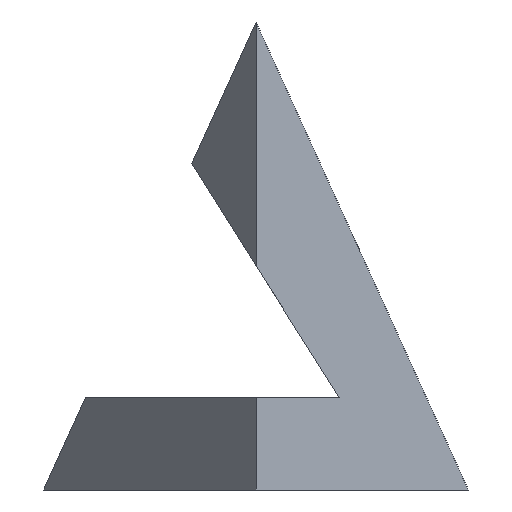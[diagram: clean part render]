
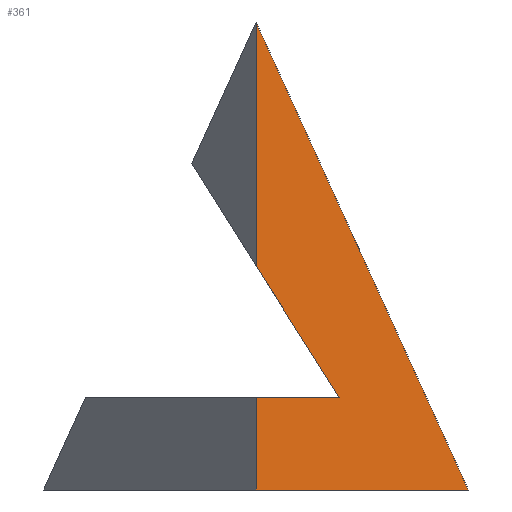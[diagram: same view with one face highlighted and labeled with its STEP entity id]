
A CAD part, front view. The second image highlights one B-rep face of the part: STEP entity #361.
In plain terms, the highlighted planar face has unit normal (0.838, -0.484, 0.254).
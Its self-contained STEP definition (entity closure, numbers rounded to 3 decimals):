
#31 = PLANE('',#32);
#32 = AXIS2_PLACEMENT_3D('',#33,#34,#35);
#33 = CARTESIAN_POINT('',(0.,0.,0.));
#34 = DIRECTION('',(0.,-0.967,-0.254));
#35 = DIRECTION('',(1.,0.,0.));
#42 = PLANE('',#43);
#43 = AXIS2_PLACEMENT_3D('',#44,#45,#46);
#44 = CARTESIAN_POINT('',(34.5,-59.756,0.));
#45 = DIRECTION('',(0.838,0.484,-0.254));
#46 = DIRECTION('',(-0.5,0.866,0.));
#54 = VERTEX_POINT('',#55);
#55 = CARTESIAN_POINT('',(69.,0.,0.));
#69 = PLANE('',#70);
#70 = AXIS2_PLACEMENT_3D('',#71,#72,#73);
#71 = CARTESIAN_POINT('',(0.,0.,0.));
#72 = DIRECTION('',(0.,0.,-1.));
#73 = DIRECTION('',(1.,0.,0.));
#81 = EDGE_CURVE('',#54,#82,#84,.T.);
#82 = VERTEX_POINT('',#83);
#83 = CARTESIAN_POINT('',(34.5,-19.919,76.));
#84 = SURFACE_CURVE('',#85,(#88,#94),.PCURVE_S1.);
#85 = B_SPLINE_CURVE_WITH_KNOTS('',1,(#86,#87),.UNSPECIFIED.,.F.,.F.,(2,
    2),(0.,1.),.PIECEWISE_BEZIER_KNOTS.);
#86 = CARTESIAN_POINT('',(69.,0.,0.));
#87 = CARTESIAN_POINT('',(34.5,-19.919,76.));
#88 = PCURVE('',#31,#89);
#89 = DEFINITIONAL_REPRESENTATION('',(#90),#93);
#90 = B_SPLINE_CURVE_WITH_KNOTS('',1,(#91,#92),.UNSPECIFIED.,.F.,.F.,(2,
    2),(0.,1.),.PIECEWISE_BEZIER_KNOTS.);
#91 = CARTESIAN_POINT('',(69.,0.));
#92 = CARTESIAN_POINT('',(34.5,78.567));
#93 = ( GEOMETRIC_REPRESENTATION_CONTEXT(2) 
PARAMETRIC_REPRESENTATION_CONTEXT() REPRESENTATION_CONTEXT('2D SPACE',''
  ) );
#94 = PCURVE('',#95,#100);
#95 = PLANE('',#96);
#96 = AXIS2_PLACEMENT_3D('',#97,#98,#99);
#97 = CARTESIAN_POINT('',(69.,0.,0.));
#98 = DIRECTION('',(-0.838,0.484,-0.254));
#99 = DIRECTION('',(-0.5,-0.866,0.));
#100 = DEFINITIONAL_REPRESENTATION('',(#101),#104);
#101 = B_SPLINE_CURVE_WITH_KNOTS('',1,(#102,#103),.UNSPECIFIED.,.F.,.F.,
  (2,2),(0.,1.),.PIECEWISE_BEZIER_KNOTS.);
#102 = CARTESIAN_POINT('',(0.,0.));
#103 = CARTESIAN_POINT('',(34.5,78.567));
#104 = ( GEOMETRIC_REPRESENTATION_CONTEXT(2) 
PARAMETRIC_REPRESENTATION_CONTEXT() REPRESENTATION_CONTEXT('2D SPACE',''
  ) );
#120 = PLANE('',#121);
#121 = AXIS2_PLACEMENT_3D('',#122,#123,#124);
#122 = CARTESIAN_POINT('',(34.5,-59.756,0.));
#123 = DIRECTION('',(0.838,0.484,-0.254));
#124 = DIRECTION('',(-0.5,0.866,0.));
#146 = PLANE('',#147);
#147 = AXIS2_PLACEMENT_3D('',#148,#149,#150);
#148 = CARTESIAN_POINT('',(48.,100.,15.));
#149 = DIRECTION('',(-0.846,-0.,-0.533));
#150 = DIRECTION('',(-0.533,0.,0.846));
#170 = PLANE('',#171);
#171 = AXIS2_PLACEMENT_3D('',#172,#173,#174);
#172 = CARTESIAN_POINT('',(-100.,100.,15.));
#173 = DIRECTION('',(-0.,0.,1.));
#174 = DIRECTION('',(1.,0.,0.));
#184 = EDGE_CURVE('',#185,#187,#189,.T.);
#185 = VERTEX_POINT('',#186);
#186 = CARTESIAN_POINT('',(34.5,-59.756,0.));
#187 = VERTEX_POINT('',#188);
#188 = CARTESIAN_POINT('',(34.5,-51.893,15.));
#189 = SURFACE_CURVE('',#190,(#193,#199),.PCURVE_S1.);
#190 = B_SPLINE_CURVE_WITH_KNOTS('',1,(#191,#192),.UNSPECIFIED.,.F.,.F.,
  (2,2),(0.,1.),.PIECEWISE_BEZIER_KNOTS.);
#191 = CARTESIAN_POINT('',(34.5,-59.756,0.));
#192 = CARTESIAN_POINT('',(34.5,-19.919,76.));
#193 = PCURVE('',#42,#194);
#194 = DEFINITIONAL_REPRESENTATION('',(#195),#198);
#195 = B_SPLINE_CURVE_WITH_KNOTS('',1,(#196,#197),.UNSPECIFIED.,.F.,.F.,
  (2,2),(0.,1.),.PIECEWISE_BEZIER_KNOTS.);
#196 = CARTESIAN_POINT('',(0.,0.));
#197 = CARTESIAN_POINT('',(34.5,78.567));
#198 = ( GEOMETRIC_REPRESENTATION_CONTEXT(2) 
PARAMETRIC_REPRESENTATION_CONTEXT() REPRESENTATION_CONTEXT('2D SPACE',''
  ) );
#199 = PCURVE('',#95,#200);
#200 = DEFINITIONAL_REPRESENTATION('',(#201),#204);
#201 = B_SPLINE_CURVE_WITH_KNOTS('',1,(#202,#203),.UNSPECIFIED.,.F.,.F.,
  (2,2),(0.,1.),.PIECEWISE_BEZIER_KNOTS.);
#202 = CARTESIAN_POINT('',(69.,0.));
#203 = CARTESIAN_POINT('',(34.5,78.567));
#204 = ( GEOMETRIC_REPRESENTATION_CONTEXT(2) 
PARAMETRIC_REPRESENTATION_CONTEXT() REPRESENTATION_CONTEXT('2D SPACE',''
  ) );
#251 = VERTEX_POINT('',#252);
#252 = CARTESIAN_POINT('',(48.,-28.51,15.));
#275 = EDGE_CURVE('',#187,#251,#276,.T.);
#276 = SURFACE_CURVE('',#277,(#281,#287),.PCURVE_S1.);
#277 = LINE('',#278,#279);
#278 = CARTESIAN_POINT('',(66.121,2.876,15.));
#279 = VECTOR('',#280,1.);
#280 = DIRECTION('',(0.5,0.866,0.));
#281 = PCURVE('',#170,#282);
#282 = DEFINITIONAL_REPRESENTATION('',(#283),#286);
#283 = B_SPLINE_CURVE_WITH_KNOTS('',1,(#284,#285),.UNSPECIFIED.,.F.,.F.,
  (2,2),(-70.051,-36.242),.PIECEWISE_BEZIER_KNOTS.);
#284 = CARTESIAN_POINT('',(131.095,-157.79));
#285 = CARTESIAN_POINT('',(148.,-128.51));
#286 = ( GEOMETRIC_REPRESENTATION_CONTEXT(2) 
PARAMETRIC_REPRESENTATION_CONTEXT() REPRESENTATION_CONTEXT('2D SPACE',''
  ) );
#287 = PCURVE('',#95,#288);
#288 = DEFINITIONAL_REPRESENTATION('',(#289),#292);
#289 = B_SPLINE_CURVE_WITH_KNOTS('',1,(#290,#291),.UNSPECIFIED.,.F.,.F.,
  (2,2),(-70.051,-36.242),.PIECEWISE_BEZIER_KNOTS.);
#290 = CARTESIAN_POINT('',(69.,15.507));
#291 = CARTESIAN_POINT('',(35.191,15.507));
#292 = ( GEOMETRIC_REPRESENTATION_CONTEXT(2) 
PARAMETRIC_REPRESENTATION_CONTEXT() REPRESENTATION_CONTEXT('2D SPACE',''
  ) );
#299 = EDGE_CURVE('',#251,#300,#302,.T.);
#300 = VERTEX_POINT('',#301);
#301 = CARTESIAN_POINT('',(34.5,-40.661,36.428));
#302 = SURFACE_CURVE('',#303,(#307,#313),.PCURVE_S1.);
#303 = LINE('',#304,#305);
#304 = CARTESIAN_POINT('',(69.496,-9.162,
    -19.12));
#305 = VECTOR('',#306,1.);
#306 = DIRECTION('',(-0.481,-0.433,0.763));
#307 = PCURVE('',#146,#308);
#308 = DEFINITIONAL_REPRESENTATION('',(#309),#312);
#309 = B_SPLINE_CURVE_WITH_KNOTS('',1,(#310,#311),.UNSPECIFIED.,.F.,.F.,
  (2,2),(44.729,99.711),.PIECEWISE_BEZIER_KNOTS.);
#310 = CARTESIAN_POINT('',(0.,-128.51));
#311 = CARTESIAN_POINT('',(49.572,-152.294));
#312 = ( GEOMETRIC_REPRESENTATION_CONTEXT(2) 
PARAMETRIC_REPRESENTATION_CONTEXT() REPRESENTATION_CONTEXT('2D SPACE',''
  ) );
#313 = PCURVE('',#95,#314);
#314 = DEFINITIONAL_REPRESENTATION('',(#315),#318);
#315 = B_SPLINE_CURVE_WITH_KNOTS('',1,(#316,#317),.UNSPECIFIED.,.F.,.F.,
  (2,2),(44.729,99.711),.PIECEWISE_BEZIER_KNOTS.);
#316 = CARTESIAN_POINT('',(35.191,15.507));
#317 = CARTESIAN_POINT('',(69.,58.865));
#318 = ( GEOMETRIC_REPRESENTATION_CONTEXT(2) 
PARAMETRIC_REPRESENTATION_CONTEXT() REPRESENTATION_CONTEXT('2D SPACE',''
  ) );
#342 = EDGE_CURVE('',#300,#82,#343,.T.);
#343 = SURFACE_CURVE('',#344,(#347,#353),.PCURVE_S1.);
#344 = B_SPLINE_CURVE_WITH_KNOTS('',1,(#345,#346),.UNSPECIFIED.,.F.,.F.,
  (2,2),(0.,1.),.PIECEWISE_BEZIER_KNOTS.);
#345 = CARTESIAN_POINT('',(34.5,-59.756,0.));
#346 = CARTESIAN_POINT('',(34.5,-19.919,76.));
#347 = PCURVE('',#120,#348);
#348 = DEFINITIONAL_REPRESENTATION('',(#349),#352);
#349 = B_SPLINE_CURVE_WITH_KNOTS('',1,(#350,#351),.UNSPECIFIED.,.F.,.F.,
  (2,2),(0.,1.),.PIECEWISE_BEZIER_KNOTS.);
#350 = CARTESIAN_POINT('',(0.,0.));
#351 = CARTESIAN_POINT('',(34.5,78.567));
#352 = ( GEOMETRIC_REPRESENTATION_CONTEXT(2) 
PARAMETRIC_REPRESENTATION_CONTEXT() REPRESENTATION_CONTEXT('2D SPACE',''
  ) );
#353 = PCURVE('',#95,#354);
#354 = DEFINITIONAL_REPRESENTATION('',(#355),#358);
#355 = B_SPLINE_CURVE_WITH_KNOTS('',1,(#356,#357),.UNSPECIFIED.,.F.,.F.,
  (2,2),(0.,1.),.PIECEWISE_BEZIER_KNOTS.);
#356 = CARTESIAN_POINT('',(69.,0.));
#357 = CARTESIAN_POINT('',(34.5,78.567));
#358 = ( GEOMETRIC_REPRESENTATION_CONTEXT(2) 
PARAMETRIC_REPRESENTATION_CONTEXT() REPRESENTATION_CONTEXT('2D SPACE',''
  ) );
#361 = ADVANCED_FACE('',(#362),#95,.F.);
#362 = FACE_BOUND('',#363,.F.);
#363 = EDGE_LOOP('',(#364,#365,#386,#387,#388,#389));
#364 = ORIENTED_EDGE('',*,*,#81,.F.);
#365 = ORIENTED_EDGE('',*,*,#366,.T.);
#366 = EDGE_CURVE('',#54,#185,#367,.T.);
#367 = SURFACE_CURVE('',#368,(#372,#379),.PCURVE_S1.);
#368 = LINE('',#369,#370);
#369 = CARTESIAN_POINT('',(69.,0.,0.));
#370 = VECTOR('',#371,1.);
#371 = DIRECTION('',(-0.5,-0.866,0.));
#372 = PCURVE('',#95,#373);
#373 = DEFINITIONAL_REPRESENTATION('',(#374),#378);
#374 = LINE('',#375,#376);
#375 = CARTESIAN_POINT('',(0.,0.));
#376 = VECTOR('',#377,1.);
#377 = DIRECTION('',(1.,0.));
#378 = ( GEOMETRIC_REPRESENTATION_CONTEXT(2) 
PARAMETRIC_REPRESENTATION_CONTEXT() REPRESENTATION_CONTEXT('2D SPACE',''
  ) );
#379 = PCURVE('',#69,#380);
#380 = DEFINITIONAL_REPRESENTATION('',(#381),#385);
#381 = LINE('',#382,#383);
#382 = CARTESIAN_POINT('',(69.,0.));
#383 = VECTOR('',#384,1.);
#384 = DIRECTION('',(-0.5,0.866));
#385 = ( GEOMETRIC_REPRESENTATION_CONTEXT(2) 
PARAMETRIC_REPRESENTATION_CONTEXT() REPRESENTATION_CONTEXT('2D SPACE',''
  ) );
#386 = ORIENTED_EDGE('',*,*,#184,.T.);
#387 = ORIENTED_EDGE('',*,*,#275,.T.);
#388 = ORIENTED_EDGE('',*,*,#299,.T.);
#389 = ORIENTED_EDGE('',*,*,#342,.T.);
